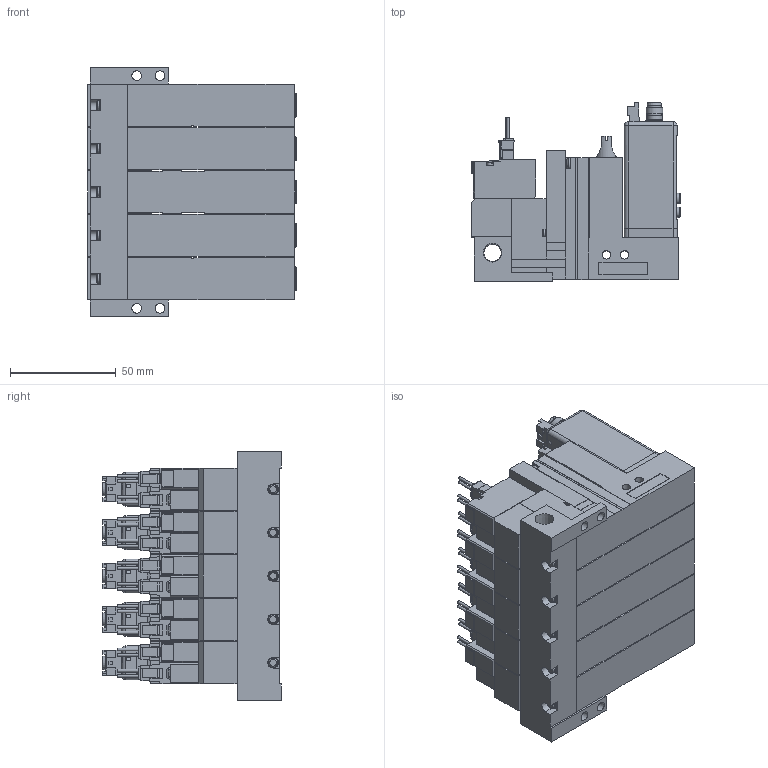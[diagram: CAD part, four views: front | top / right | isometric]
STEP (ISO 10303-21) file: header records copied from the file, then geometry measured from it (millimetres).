
FILE_DESCRIPTION(('STEP AP203'),'1');
FILE_NAME('22_22PLC5ALR505.stp','2025-06-12T04:34:32',(' '),(' '),'Spatial InterOp 3D',' ',' ');
FILE_SCHEMA(('CONFIG_CONTROL_DESIGN'));
Length unit declared in the file: millimetre
Products named in the file (9): BMC22M※※※※22_22PLC5ALR505; Solenoid valve A; Unit LC; Base MR50R; MVS-202
Assembly tree (16 placements, depth 2):
  BMC22M※※※※22_22PLC5ALR505
    Solenoid valve A  x5
    Unit LC  x5
    Base MR50R
    MVS-202
    MVS-202
    MVS-202
    MVS-202
    MVS-202
Bounding box: 98.5 x 84.6 x 118 mm (x, y, z)
Volume: 549054.4 mm3; surface area: 156491.7 mm2
Topology: 16 solids, 36 shells, 4041 faces, 10539 edges, 6870 vertices
Faces by surface type: plane 3404, cylinder 495, cone 82, torus 40, sphere 20
Full cylindrical faces by diameter (mm): 1 x20, 1.4 x20, 1.5 x5, 2.5 x5, 3 x20, 3.5 x20, 3.6 x5, 4 x10, 4.134 x5, 4.5 x24, 4.8 x15, 5 x10, 5.2 x5, 5.8 x10, 6 x10, 6.5 x15, 6.6 x5, 7 x5, 7.2 x5, 7.9 x5, 8 x10, 8.279 x1
Entity records: 76480 total; most frequent: CARTESIAN_POINT 13802, ORIENTED_EDGE 12524, DIRECTION 12334, EDGE_CURVE 6262, LINE 5292, VECTOR 5292, VERTEX_POINT 4233, AXIS2_PLACEMENT_3D 3521
